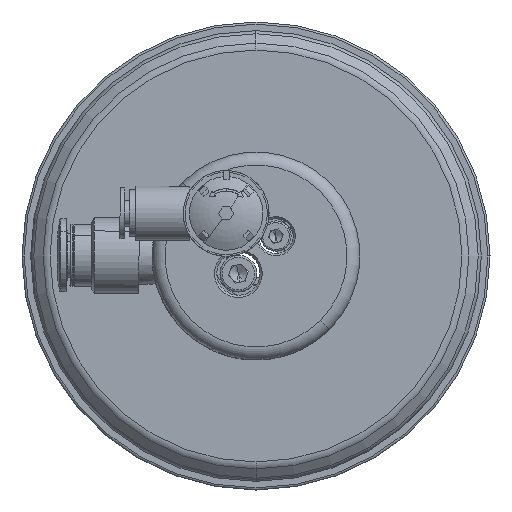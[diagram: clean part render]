
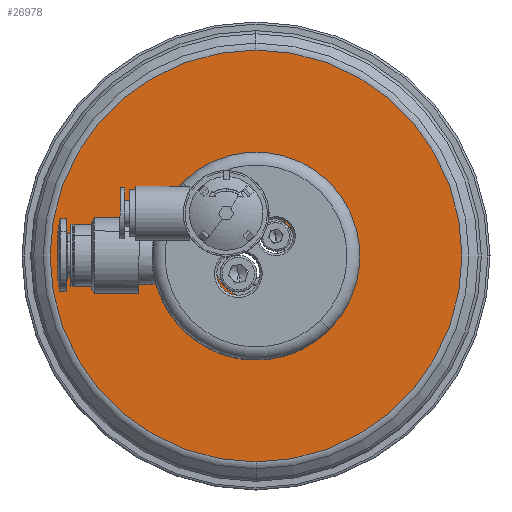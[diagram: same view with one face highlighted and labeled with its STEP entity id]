
A CAD part, front view. The second image highlights one B-rep face of the part: STEP entity #26978.
In plain terms, the highlighted planar face has unit normal (0, -1, 0).
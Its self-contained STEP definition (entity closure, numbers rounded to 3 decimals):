
#78 = CARTESIAN_POINT ( 'NONE',  ( 18.441, 0., -2.428 ) ) ;
#344 = CIRCLE ( 'NONE', #20143, 3.6 ) ;
#410 = VERTEX_POINT ( 'NONE', #23804 ) ;
#802 = EDGE_CURVE ( 'NONE', #2690, #1258, #18826, .T. ) ;
#1258 = VERTEX_POINT ( 'NONE', #12204 ) ;
#1341 = DIRECTION ( 'NONE',  ( 0., 0., 1. ) ) ;
#2096 = FACE_OUTER_BOUND ( 'NONE', #33467, .T. ) ;
#2690 = VERTEX_POINT ( 'NONE', #31804 ) ;
#3553 = AXIS2_PLACEMENT_3D ( 'NONE', #10401, #26701, #7729 ) ;
#3815 = EDGE_CURVE ( 'NONE', #4337, #30398, #15186, .T. ) ;
#3868 = DIRECTION ( 'NONE',  ( 0., 0., 1. ) ) ;
#4020 = DIRECTION ( 'NONE',  ( 0., 0., 1. ) ) ;
#4337 = VERTEX_POINT ( 'NONE', #16013 ) ;
#4343 = EDGE_CURVE ( 'NONE', #21034, #13349, #6713, .T. ) ;
#4647 = VERTEX_POINT ( 'NONE', #18799 ) ;
#4909 = DIRECTION ( 'NONE',  ( 0., 0., 1. ) ) ;
#5690 = CIRCLE ( 'NONE', #15299, 18.6 ) ;
#6560 = ORIENTED_EDGE ( 'NONE', *, *, #21244, .T. ) ;
#6669 = CARTESIAN_POINT ( 'NONE',  ( 0., 0., 0. ) ) ;
#6713 = CIRCLE ( 'NONE', #25982, 3.6 ) ;
#7729 = DIRECTION ( 'NONE',  ( 0., 0., 1. ) ) ;
#7763 = DIRECTION ( 'NONE',  ( 0., 0., 1. ) ) ;
#9229 = AXIS2_PLACEMENT_3D ( 'NONE', #14831, #25658, #23006 ) ;
#9310 = CARTESIAN_POINT ( 'NONE',  ( 0., 0., 0. ) ) ;
#9484 = ORIENTED_EDGE ( 'NONE', *, *, #31459, .T. ) ;
#9563 = CIRCLE ( 'NONE', #34972, 47.515 ) ;
#10274 = DIRECTION ( 'NONE',  ( 0., -1., 0. ) ) ;
#10401 = CARTESIAN_POINT ( 'NONE',  ( 14.872, 0., -1.958 ) ) ;
#10918 = CIRCLE ( 'NONE', #3553, 3.6 ) ;
#11673 = ORIENTED_EDGE ( 'NONE', *, *, #802, .T. ) ;
#11817 = EDGE_CURVE ( 'NONE', #4647, #17987, #9563, .T. ) ;
#11909 = CARTESIAN_POINT ( 'NONE',  ( 0., 0., -47.515 ) ) ;
#12100 = AXIS2_PLACEMENT_3D ( 'NONE', #21414, #10274, #21590 ) ;
#12204 = CARTESIAN_POINT ( 'NONE',  ( 0., 0., 10.1 ) ) ;
#12699 = CIRCLE ( 'NONE', #34172, 11.4 ) ;
#12737 = ORIENTED_EDGE ( 'NONE', *, *, #3815, .T. ) ;
#13304 = DIRECTION ( 'NONE',  ( 0., 0., 1. ) ) ;
#13349 = VERTEX_POINT ( 'NONE', #23074 ) ;
#13498 = ORIENTED_EDGE ( 'NONE', *, *, #16195, .T. ) ;
#13784 = ORIENTED_EDGE ( 'NONE', *, *, #22370, .T. ) ;
#13818 = CARTESIAN_POINT ( 'NONE',  ( 0., 0., 0. ) ) ;
#13881 = AXIS2_PLACEMENT_3D ( 'NONE', #34691, #29432, #21259 ) ;
#14408 = ORIENTED_EDGE ( 'NONE', *, *, #27361, .T. ) ;
#14555 = CIRCLE ( 'NONE', #19075, 18.6 ) ;
#14805 = DIRECTION ( 'NONE',  ( 0., 1., 0. ) ) ;
#14831 = CARTESIAN_POINT ( 'NONE',  ( 0., 0., 0. ) ) ;
#15186 = CIRCLE ( 'NONE', #28235, 11.4 ) ;
#15299 = AXIS2_PLACEMENT_3D ( 'NONE', #24989, #33114, #27305 ) ;
#15895 = ORIENTED_EDGE ( 'NONE', *, *, #11817, .T. ) ;
#16013 = CARTESIAN_POINT ( 'NONE',  ( 11.302, 0., -1.488 ) ) ;
#16014 = CIRCLE ( 'NONE', #27366, 10.1 ) ;
#16194 = CARTESIAN_POINT ( 'NONE',  ( 11.302, 0., 1.488 ) ) ;
#16195 = EDGE_CURVE ( 'NONE', #17333, #21034, #14555, .T. ) ;
#16944 = EDGE_LOOP ( 'NONE', ( #9484, #6560, #13498, #24868 ) ) ;
#17333 = VERTEX_POINT ( 'NONE', #20732 ) ;
#17987 = VERTEX_POINT ( 'NONE', #11909 ) ;
#18375 = FACE_BOUND ( 'NONE', #19927, .T. ) ;
#18510 = DIRECTION ( 'NONE',  ( 0., 0., 1. ) ) ;
#18799 = CARTESIAN_POINT ( 'NONE',  ( 0., 0., 47.515 ) ) ;
#18826 = CIRCLE ( 'NONE', #9229, 10.1 ) ;
#19075 = AXIS2_PLACEMENT_3D ( 'NONE', #27444, #27987, #3868 ) ;
#19533 = EDGE_CURVE ( 'NONE', #32226, #4337, #10918, .T. ) ;
#19927 = EDGE_LOOP ( 'NONE', ( #24052, #22159, #12737, #14408 ) ) ;
#20143 = AXIS2_PLACEMENT_3D ( 'NONE', #23848, #21195, #26870 ) ;
#20732 = CARTESIAN_POINT ( 'NONE',  ( -18.441, 0., -2.428 ) ) ;
#20759 = CARTESIAN_POINT ( 'NONE',  ( -18.441, 0., 2.428 ) ) ;
#21016 = CARTESIAN_POINT ( 'NONE',  ( 0., 0., 0. ) ) ;
#21034 = VERTEX_POINT ( 'NONE', #20759 ) ;
#21064 = PLANE ( 'NONE',  #21618 ) ;
#21195 = DIRECTION ( 'NONE',  ( 0., 1., 0. ) ) ;
#21244 = EDGE_CURVE ( 'NONE', #410, #17333, #29761, .T. ) ;
#21259 = DIRECTION ( 'NONE',  ( 0., 0., 1. ) ) ;
#21414 = CARTESIAN_POINT ( 'NONE',  ( 0., 0., 0. ) ) ;
#21590 = DIRECTION ( 'NONE',  ( 0., 0., 1. ) ) ;
#21618 = AXIS2_PLACEMENT_3D ( 'NONE', #34480, #34150, #7763 ) ;
#22159 = ORIENTED_EDGE ( 'NONE', *, *, #19533, .T. ) ;
#22315 = EDGE_LOOP ( 'NONE', ( #13784, #11673 ) ) ;
#22370 = EDGE_CURVE ( 'NONE', #1258, #2690, #16014, .T. ) ;
#22940 = EDGE_CURVE ( 'NONE', #17987, #4647, #29653, .T. ) ;
#23006 = DIRECTION ( 'NONE',  ( 0., 0., 1. ) ) ;
#23074 = CARTESIAN_POINT ( 'NONE',  ( -11.302, 0., 1.488 ) ) ;
#23656 = CARTESIAN_POINT ( 'NONE',  ( -14.872, 0., 1.958 ) ) ;
#23804 = CARTESIAN_POINT ( 'NONE',  ( -11.302, 0., -1.488 ) ) ;
#23848 = CARTESIAN_POINT ( 'NONE',  ( 14.872, 0., 1.958 ) ) ;
#24052 = ORIENTED_EDGE ( 'NONE', *, *, #28080, .T. ) ;
#24303 = CARTESIAN_POINT ( 'NONE',  ( 18.441, 0., 2.428 ) ) ;
#24868 = ORIENTED_EDGE ( 'NONE', *, *, #4343, .T. ) ;
#24989 = CARTESIAN_POINT ( 'NONE',  ( 0., 0., 0. ) ) ;
#25658 = DIRECTION ( 'NONE',  ( 0., 1., 0. ) ) ;
#25982 = AXIS2_PLACEMENT_3D ( 'NONE', #23656, #31795, #18510 ) ;
#26376 = FACE_BOUND ( 'NONE', #16944, .T. ) ;
#26701 = DIRECTION ( 'NONE',  ( 0., 1., 0. ) ) ;
#26870 = DIRECTION ( 'NONE',  ( 0., 0., 1. ) ) ;
#26978 = ADVANCED_FACE ( 'NONE', ( #31829, #18375, #26376, #2096 ), #21064, .F. ) ;
#27305 = DIRECTION ( 'NONE',  ( 0., 0., 1. ) ) ;
#27361 = EDGE_CURVE ( 'NONE', #30398, #28058, #344, .T. ) ;
#27366 = AXIS2_PLACEMENT_3D ( 'NONE', #6669, #14805, #4020 ) ;
#27444 = CARTESIAN_POINT ( 'NONE',  ( 0., 0., 0. ) ) ;
#27642 = ORIENTED_EDGE ( 'NONE', *, *, #22940, .T. ) ;
#27987 = DIRECTION ( 'NONE',  ( 0., 1., 0. ) ) ;
#28058 = VERTEX_POINT ( 'NONE', #24303 ) ;
#28080 = EDGE_CURVE ( 'NONE', #28058, #32226, #5690, .T. ) ;
#28235 = AXIS2_PLACEMENT_3D ( 'NONE', #13818, #32604, #13304 ) ;
#29432 = DIRECTION ( 'NONE',  ( 0., 1., 0. ) ) ;
#29653 = CIRCLE ( 'NONE', #12100, 47.515 ) ;
#29761 = CIRCLE ( 'NONE', #13881, 3.6 ) ;
#30398 = VERTEX_POINT ( 'NONE', #16194 ) ;
#31459 = EDGE_CURVE ( 'NONE', #13349, #410, #12699, .T. ) ;
#31795 = DIRECTION ( 'NONE',  ( 0., 1., 0. ) ) ;
#31804 = CARTESIAN_POINT ( 'NONE',  ( 0., 0., -10.1 ) ) ;
#31820 = DIRECTION ( 'NONE',  ( 0., -1., 0. ) ) ;
#31829 = FACE_BOUND ( 'NONE', #22315, .T. ) ;
#32226 = VERTEX_POINT ( 'NONE', #78 ) ;
#32604 = DIRECTION ( 'NONE',  ( 0., -1., 0. ) ) ;
#33114 = DIRECTION ( 'NONE',  ( 0., 1., 0. ) ) ;
#33467 = EDGE_LOOP ( 'NONE', ( #15895, #27642 ) ) ;
#34043 = DIRECTION ( 'NONE',  ( 0., -1., 0. ) ) ;
#34150 = DIRECTION ( 'NONE',  ( 0., 1., 0. ) ) ;
#34172 = AXIS2_PLACEMENT_3D ( 'NONE', #21016, #31820, #4909 ) ;
#34480 = CARTESIAN_POINT ( 'NONE',  ( 0., 0., 0. ) ) ;
#34691 = CARTESIAN_POINT ( 'NONE',  ( -14.872, 0., -1.958 ) ) ;
#34972 = AXIS2_PLACEMENT_3D ( 'NONE', #9310, #34043, #1341 ) ;
